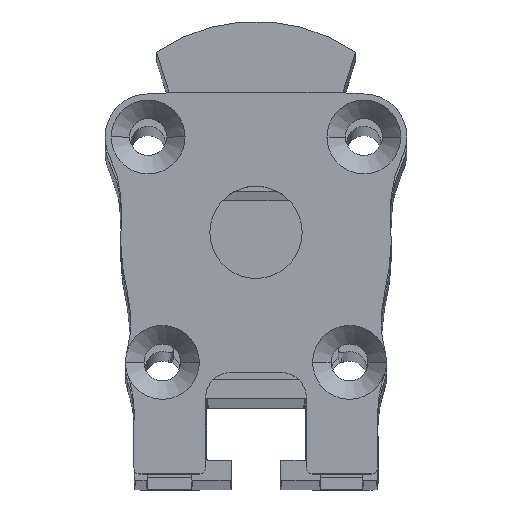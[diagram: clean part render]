
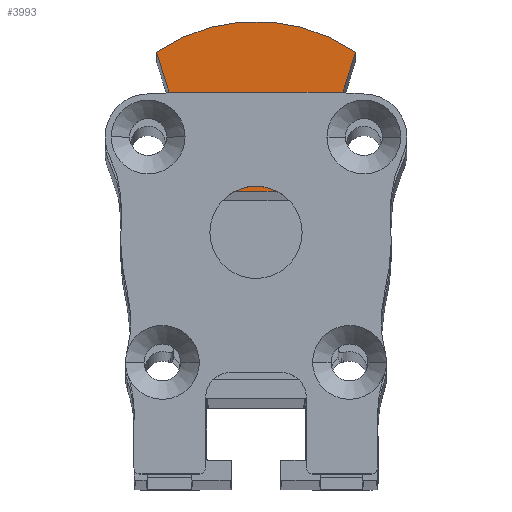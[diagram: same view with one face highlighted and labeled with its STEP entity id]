
A CAD part, top view. The second image highlights one B-rep face of the part: STEP entity #3993.
In plain terms, the highlighted planar face has unit normal (0, 0, 1).
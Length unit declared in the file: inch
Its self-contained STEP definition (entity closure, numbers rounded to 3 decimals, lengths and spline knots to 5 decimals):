
#3993=ADVANCED_FACE('',(#7809),#7810,.T.);
#4001=EDGE_CURVE('',#7813,#7819,#7822,.T.);
#4007=EDGE_CURVE('',#7827,#7819,#7830,.F.);
#4029=EDGE_CURVE('',#7861,#7862,#7863,.F.);
#4035=EDGE_CURVE('',#7869,#7870,#7871,.F.);
#4041=EDGE_CURVE('',#7870,#7861,#7877,.F.);
#4043=EDGE_CURVE('',#7869,#7879,#7880,.F.);
#4047=EDGE_CURVE('',#7813,#7862,#7884,.F.);
#4049=EDGE_CURVE('',#7886,#7887,#7888,.F.);
#4055=EDGE_CURVE('',#7827,#7894,#7895,.F.);
#4059=EDGE_CURVE('',#7894,#7886,#7899,.F.);
#4063=EDGE_CURVE('',#7901,#7887,#7904,.F.);
#4065=EDGE_CURVE('',#7879,#7901,#7906,.F.);
#7809=FACE_OUTER_BOUND('',#18359,.T.);
#7810=PLANE('',#18360);
#7813=VERTEX_POINT('',#18364);
#7819=VERTEX_POINT('',#18374);
#7822=LINE('',#18379,#18380);
#7827=VERTEX_POINT('',#18388);
#7830=LINE('',#18393,#18394);
#7861=VERTEX_POINT('',#18445);
#7862=VERTEX_POINT('',#18446);
#7863=LINE('',#18447,#18448);
#7869=VERTEX_POINT('',#18459);
#7870=VERTEX_POINT('',#18460);
#7871=LINE('',#18461,#18462);
#7877=LINE('',#18473,#18474);
#7879=VERTEX_POINT('',#18477);
#7880=LINE('',#18478,#18479);
#7884=LINE('',#18486,#18487);
#7886=VERTEX_POINT('',#18490);
#7887=VERTEX_POINT('',#18491);
#7888=LINE('',#18492,#18493);
#7894=VERTEX_POINT('',#18504);
#7895=LINE('',#18505,#18506);
#7899=LINE('',#18513,#18514);
#7901=VERTEX_POINT('',#18517);
#7904=LINE('',#18522,#18523);
#7906=CIRCLE('',#18526,0.56299);
#18359=EDGE_LOOP('',(#24068,#24069,#24070,#24071,#24072,#24073,#24074,#24075,#24076,#24077,#24078,#24079));
#18360=AXIS2_PLACEMENT_3D('',#24080,#24081,#24082);
#18364=CARTESIAN_POINT('',(-0.17932,0.15296,6.05556));
#18374=CARTESIAN_POINT('',(0.17932,0.15296,6.05556));
#18379=CARTESIAN_POINT('',(0.,0.15296,6.05556));
#18380=VECTOR('',#24086,1.0);
#18388=CARTESIAN_POINT('',(0.26301,0.4208,6.05556));
#18393=CARTESIAN_POINT('',(0.19145,0.19179,6.05556));
#18394=VECTOR('',#24089,1.0);
#18445=CARTESIAN_POINT('',(-0.21005,0.4208,6.05556));
#18446=CARTESIAN_POINT('',(-0.26301,0.4208,6.05556));
#18447=CARTESIAN_POINT('',(-0.12298,0.4208,6.05556));
#18448=VECTOR('',#24102,1.0);
#18459=CARTESIAN_POINT('',(-0.27532,0.46017,6.05556));
#18460=CARTESIAN_POINT('',(-0.21005,0.46017,6.05556));
#18461=CARTESIAN_POINT('',(-0.12298,0.46017,6.05556));
#18462=VECTOR('',#24105,1.0);
#18473=CARTESIAN_POINT('',(-0.21005,0.35333,6.05556));
#18474=VECTOR('',#24108,1.0);
#18477=CARTESIAN_POINT('',(-0.31832,0.59777,6.05556));
#18478=CARTESIAN_POINT('',(-0.19145,0.19179,6.05556));
#18479=VECTOR('',#24109,1.0);
#18486=CARTESIAN_POINT('',(-0.19145,0.19179,6.05556));
#18487=VECTOR('',#24111,1.0);
#18490=CARTESIAN_POINT('',(0.20856,0.46017,6.05556));
#18491=CARTESIAN_POINT('',(0.27532,0.46017,6.05556));
#18492=CARTESIAN_POINT('',(0.12223,0.46017,6.05556));
#18493=VECTOR('',#24112,1.0);
#18504=CARTESIAN_POINT('',(0.20856,0.4208,6.05556));
#18505=CARTESIAN_POINT('',(0.12223,0.4208,6.05556));
#18506=VECTOR('',#24115,1.0);
#18513=CARTESIAN_POINT('',(0.20856,0.35333,6.05556));
#18514=VECTOR('',#24117,1.0);
#18517=CARTESIAN_POINT('',(0.31832,0.59777,6.05556));
#18522=CARTESIAN_POINT('',(0.19145,0.19179,6.05556));
#18523=VECTOR('',#24119,1.0);
#18526=AXIS2_PLACEMENT_3D('',#24120,#24121,#24122);
#24068=ORIENTED_EDGE('',*,*,#4001,.T.);
#24069=ORIENTED_EDGE('',*,*,#4007,.F.);
#24070=ORIENTED_EDGE('',*,*,#4055,.T.);
#24071=ORIENTED_EDGE('',*,*,#4059,.T.);
#24072=ORIENTED_EDGE('',*,*,#4049,.T.);
#24073=ORIENTED_EDGE('',*,*,#4063,.F.);
#24074=ORIENTED_EDGE('',*,*,#4065,.F.);
#24075=ORIENTED_EDGE('',*,*,#4043,.F.);
#24076=ORIENTED_EDGE('',*,*,#4035,.T.);
#24077=ORIENTED_EDGE('',*,*,#4041,.T.);
#24078=ORIENTED_EDGE('',*,*,#4029,.T.);
#24079=ORIENTED_EDGE('',*,*,#4047,.F.);
#24080=CARTESIAN_POINT('',(0.,0.26619,6.05556));
#24081=DIRECTION('',(0.,0.,1.0));
#24082=DIRECTION('',(1.0,0.0,0.));
#24086=DIRECTION('',(1.0,0.0,0.));
#24089=DIRECTION('',(0.298,0.954,0.));
#24102=DIRECTION('',(1.0,0.0,0.));
#24105=DIRECTION('',(-1.0,0.0,0.));
#24108=DIRECTION('',(-0.0,1.0,0.));
#24109=DIRECTION('',(0.298,-0.954,0.));
#24111=DIRECTION('',(0.298,-0.954,0.));
#24112=DIRECTION('',(-1.0,0.0,0.));
#24115=DIRECTION('',(1.0,0.0,0.));
#24117=DIRECTION('',(-0.0,-1.0,0.));
#24119=DIRECTION('',(0.298,0.954,0.));
#24120=CARTESIAN_POINT('',(0.,0.13341,6.05556));
#24121=DIRECTION('',(0.,0.,1.0));
#24122=DIRECTION('',(1.0,0.,0.));
